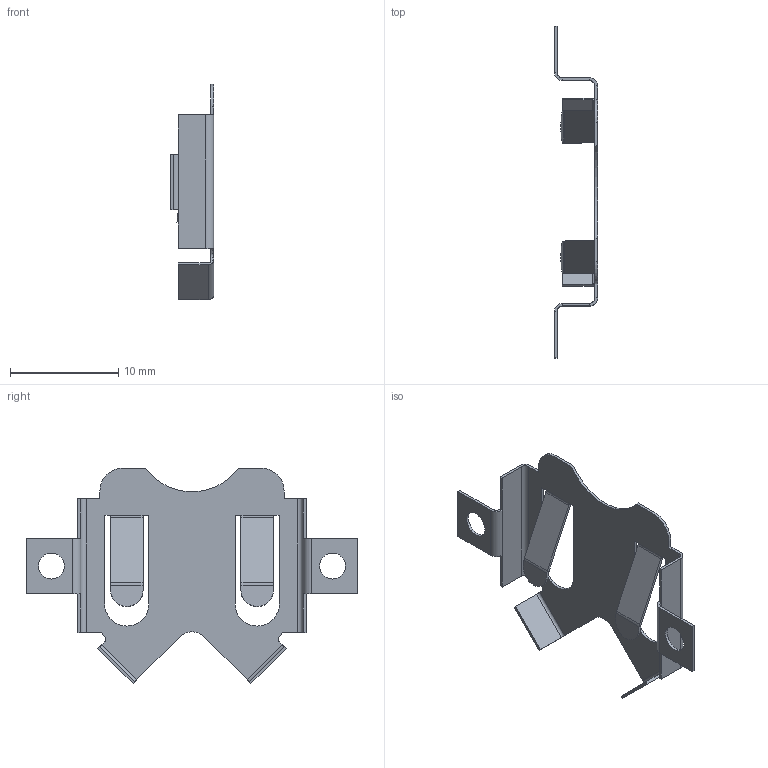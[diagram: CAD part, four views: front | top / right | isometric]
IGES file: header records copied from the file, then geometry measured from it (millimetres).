
Start section:  PTC IGES file: s8211-46.igs
Global section: file name: s8211-46.igs; native system: Pro/ENGINEER by Parametric Technology Corporation; preprocessor: 2010280; author: wbourne; organization: Unknown; date: 20120315.114952; units: millimetre
Bounding box: 4 x 30.7 x 19.94 mm (x, y, z)
Surface area: 956.1 mm2 (no closed solid volume)
Topology: 0 solids, 0 shells, 165 faces, 800 edges, 800 vertices
Faces by surface type: bspline 129, revolution 36
